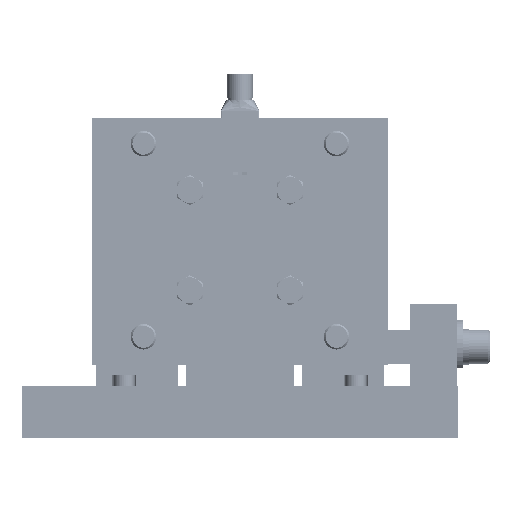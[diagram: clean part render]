
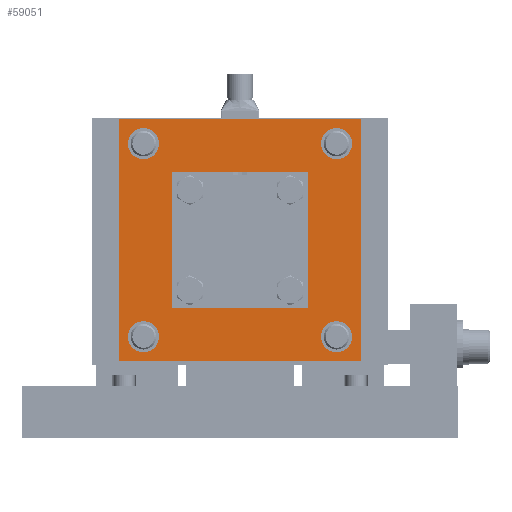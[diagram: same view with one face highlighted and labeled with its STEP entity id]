
A CAD part, front view. The second image highlights one B-rep face of the part: STEP entity #59051.
In plain terms, the highlighted planar face has unit normal (0, -1, 0) as drawn and (0, 0, 1) by its records, which use the part's own axes.
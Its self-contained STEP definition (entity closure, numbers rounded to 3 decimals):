
#6138=LINE($,#161964,#9369);
#6141=LINE($,#161969,#9372);
#6142=LINE($,#162011,#9373);
#6144=LINE($,#162014,#9375);
#9369=VECTOR($,#80456,113.03);
#9372=VECTOR($,#80461,113.03);
#9373=VECTOR($,#80516,113.03);
#9375=VECTOR($,#80520,113.03);
#11011=PLANE($,#65459);
#12803=FACE_BOUND($,#23253,.T.);
#12804=FACE_BOUND($,#23254,.T.);
#12805=FACE_BOUND($,#23255,.T.);
#12806=FACE_BOUND($,#23256,.T.);
#12807=FACE_BOUND($,#23257,.T.);
#12808=FACE_BOUND($,#23258,.T.);
#12809=FACE_BOUND($,#23259,.T.);
#12810=FACE_BOUND($,#23260,.T.);
#12811=FACE_BOUND($,#23261,.T.);
#17780=FACE_OUTER_BOUND($,#23252,.T.);
#23252=EDGE_LOOP($,(#53698,#53699,#53700,#53701));
#23253=EDGE_LOOP($,(#53702));
#23254=EDGE_LOOP($,(#53703));
#23255=EDGE_LOOP($,(#53704));
#23256=EDGE_LOOP($,(#53705));
#23257=EDGE_LOOP($,(#53706));
#23258=EDGE_LOOP($,(#53707));
#23259=EDGE_LOOP($,(#53708));
#23260=EDGE_LOOP($,(#53709));
#23261=EDGE_LOOP($,(#53710));
#25797=CIRCLE($,#65404,7.25);
#25801=CIRCLE($,#65411,7.25);
#25805=CIRCLE($,#65418,7.25);
#25809=CIRCLE($,#65425,7.25);
#25811=CIRCLE($,#65432,22.5);
#25814=CIRCLE($,#65437,6.);
#25817=CIRCLE($,#65443,6.);
#25820=CIRCLE($,#65449,6.);
#25823=CIRCLE($,#65455,6.);
#31208=VERTEX_POINT($,#161913);
#31212=VERTEX_POINT($,#161924);
#31216=VERTEX_POINT($,#161935);
#31220=VERTEX_POINT($,#161946);
#31226=VERTEX_POINT($,#161961);
#31227=VERTEX_POINT($,#161963);
#31228=VERTEX_POINT($,#161967);
#31229=VERTEX_POINT($,#161971);
#31232=VERTEX_POINT($,#161979);
#31235=VERTEX_POINT($,#161988);
#31238=VERTEX_POINT($,#161997);
#31241=VERTEX_POINT($,#162006);
#31242=VERTEX_POINT($,#162010);
#38780=EDGE_CURVE($,#31208,#31208,#25797,.T.);
#38784=EDGE_CURVE($,#31212,#31212,#25801,.T.);
#38788=EDGE_CURVE($,#31216,#31216,#25805,.T.);
#38792=EDGE_CURVE($,#31220,#31220,#25809,.T.);
#38799=EDGE_CURVE($,#31227,#31226,#6138,.T.);
#38802=EDGE_CURVE($,#31226,#31228,#6141,.T.);
#38803=EDGE_CURVE($,#31229,#31229,#25811,.T.);
#38806=EDGE_CURVE($,#31232,#31232,#25814,.T.);
#38809=EDGE_CURVE($,#31235,#31235,#25817,.T.);
#38812=EDGE_CURVE($,#31238,#31238,#25820,.T.);
#38815=EDGE_CURVE($,#31241,#31241,#25823,.T.);
#38816=EDGE_CURVE($,#31242,#31227,#6142,.T.);
#38818=EDGE_CURVE($,#31228,#31242,#6144,.T.);
#53698=ORIENTED_EDGE($,*,*,#38802,.T.);
#53699=ORIENTED_EDGE($,*,*,#38818,.T.);
#53700=ORIENTED_EDGE($,*,*,#38816,.T.);
#53701=ORIENTED_EDGE($,*,*,#38799,.T.);
#53702=ORIENTED_EDGE($,*,*,#38780,.T.);
#53703=ORIENTED_EDGE($,*,*,#38784,.T.);
#53704=ORIENTED_EDGE($,*,*,#38788,.T.);
#53705=ORIENTED_EDGE($,*,*,#38792,.T.);
#53706=ORIENTED_EDGE($,*,*,#38803,.T.);
#53707=ORIENTED_EDGE($,*,*,#38806,.T.);
#53708=ORIENTED_EDGE($,*,*,#38809,.T.);
#53709=ORIENTED_EDGE($,*,*,#38812,.T.);
#53710=ORIENTED_EDGE($,*,*,#38815,.T.);
#59051=ADVANCED_FACE($,(#17780,#12803,#12804,#12805,#12806,#12807,#12808,
#12809,#12810,#12811),#11011,.T.);
#65404=AXIS2_PLACEMENT_3D($,#161914,#80399,#80400);
#65411=AXIS2_PLACEMENT_3D($,#161925,#80413,#80414);
#65418=AXIS2_PLACEMENT_3D($,#161936,#80427,#80428);
#65425=AXIS2_PLACEMENT_3D($,#161947,#80441,#80442);
#65432=AXIS2_PLACEMENT_3D($,#161972,#80464,#80465);
#65437=AXIS2_PLACEMENT_3D($,#161980,#80474,#80475);
#65443=AXIS2_PLACEMENT_3D($,#161989,#80486,#80487);
#65449=AXIS2_PLACEMENT_3D($,#161998,#80498,#80499);
#65455=AXIS2_PLACEMENT_3D($,#162007,#80510,#80511);
#65459=AXIS2_PLACEMENT_3D($,#162015,#80521,#80522);
#80399=DIRECTION('center_axis',(0.,0.,-1.));
#80400=DIRECTION('ref_axis',(1.,0.,0.));
#80413=DIRECTION('center_axis',(0.,0.,-1.));
#80414=DIRECTION('ref_axis',(1.,0.,0.));
#80427=DIRECTION('center_axis',(0.,0.,-1.));
#80428=DIRECTION('ref_axis',(1.,0.,0.));
#80441=DIRECTION('center_axis',(0.,0.,-1.));
#80442=DIRECTION('ref_axis',(1.,0.,0.));
#80456=DIRECTION($,(0.,1.,0.));
#80461=DIRECTION($,(-1.,0.,0.));
#80464=DIRECTION('center_axis',(0.,0.,-1.));
#80465=DIRECTION('ref_axis',(-1.,0.,0.));
#80474=DIRECTION('center_axis',(0.,0.,-1.));
#80475=DIRECTION('ref_axis',(1.,0.,0.));
#80486=DIRECTION('center_axis',(0.,0.,-1.));
#80487=DIRECTION('ref_axis',(1.,0.,0.));
#80498=DIRECTION('center_axis',(0.,0.,-1.));
#80499=DIRECTION('ref_axis',(1.,0.,0.));
#80510=DIRECTION('center_axis',(0.,0.,-1.));
#80511=DIRECTION('ref_axis',(1.,0.,0.));
#80516=DIRECTION($,(1.,0.,0.));
#80520=DIRECTION($,(0.,-1.,0.));
#80521=DIRECTION('center_axis',(0.,0.,1.));
#80522=DIRECTION('ref_axis',(1.,0.,0.));
#161913=CARTESIAN_POINT('',(52.25,-45.,40.));
#161914=CARTESIAN_POINT('Origin',(45.,-45.,40.));
#161924=CARTESIAN_POINT('',(-37.75,45.,40.));
#161925=CARTESIAN_POINT('Origin',(-45.,45.,40.));
#161935=CARTESIAN_POINT('',(52.25,45.,40.));
#161936=CARTESIAN_POINT('Origin',(45.,45.,40.));
#161946=CARTESIAN_POINT('',(-37.75,-45.,40.));
#161947=CARTESIAN_POINT('Origin',(-45.,-45.,40.));
#161961=CARTESIAN_POINT('',(56.515,56.515,40.));
#161963=CARTESIAN_POINT('',(56.515,-56.515,40.));
#161964=CARTESIAN_POINT($,(56.515,56.515,40.));
#161967=CARTESIAN_POINT('',(-56.515,56.515,40.));
#161969=CARTESIAN_POINT($,(-56.515,56.515,40.));
#161971=CARTESIAN_POINT('',(22.5,0.,40.));
#161972=CARTESIAN_POINT('Origin',(0.,0.,40.));
#161979=CARTESIAN_POINT('',(29.368,-23.368,40.));
#161980=CARTESIAN_POINT('Origin',(23.368,-23.368,40.));
#161988=CARTESIAN_POINT('',(-17.368,23.368,40.));
#161989=CARTESIAN_POINT('Origin',(-23.368,23.368,40.));
#161997=CARTESIAN_POINT('',(29.368,23.368,40.));
#161998=CARTESIAN_POINT('Origin',(23.368,23.368,40.));
#162006=CARTESIAN_POINT('',(-17.368,-23.368,40.));
#162007=CARTESIAN_POINT('Origin',(-23.368,-23.368,40.));
#162010=CARTESIAN_POINT('',(-56.515,-56.515,40.));
#162011=CARTESIAN_POINT($,(56.515,-56.515,40.));
#162014=CARTESIAN_POINT($,(-56.515,-56.515,40.));
#162015=CARTESIAN_POINT('Origin',(0.,0.,40.));
